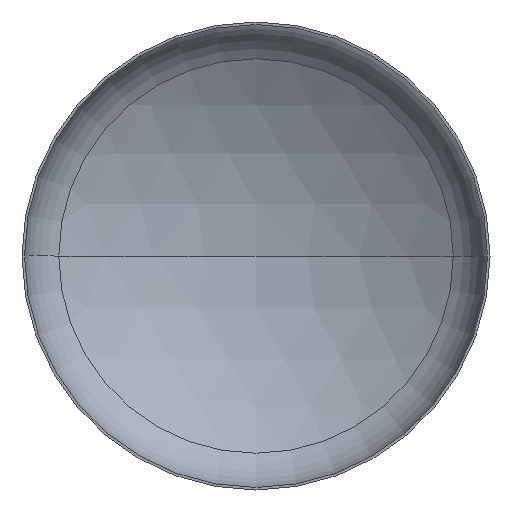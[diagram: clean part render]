
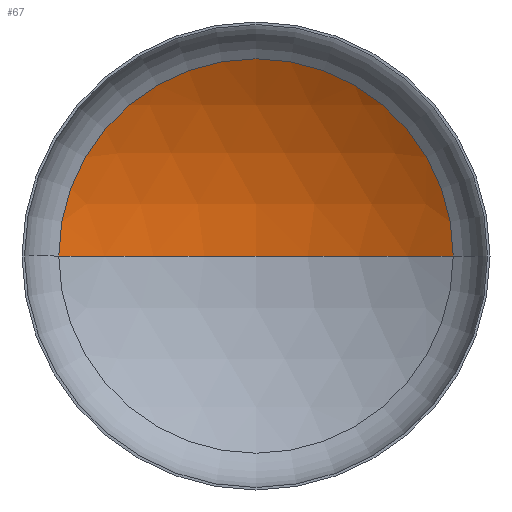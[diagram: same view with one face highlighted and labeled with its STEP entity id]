
A CAD part, front view. The second image highlights one B-rep face of the part: STEP entity #67.
In plain terms, the highlighted spherical face has radius 880 mm.
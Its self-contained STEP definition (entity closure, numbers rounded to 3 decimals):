
#20 = CARTESIAN_POINT ( 'NONE',  ( 0., -583.51, 0. ) ) ;
#22 = VERTEX_POINT ( 'NONE', #109 ) ;
#29 = DIRECTION ( 'NONE',  ( 0., 0., -1. ) ) ;
#58 = AXIS2_PLACEMENT_3D ( 'NONE', #216, #212, #208 ) ;
#61 = CIRCLE ( 'NONE', #58, 880. ) ;
#67 = ADVANCED_FACE ( 'NONE', ( #197 ), #292, .F. ) ;
#68 = AXIS2_PLACEMENT_3D ( 'NONE', #259, #257, #265 ) ;
#73 = AXIS2_PLACEMENT_3D ( 'NONE', #231, #230, #229 ) ;
#76 = ORIENTED_EDGE ( 'NONE', *, *, #177, .T. ) ;
#109 = CARTESIAN_POINT ( 'NONE',  ( 463.549, 164.502, 0. ) ) ;
#131 = AXIS2_PLACEMENT_3D ( 'NONE', #20, #29, #153 ) ;
#153 = DIRECTION ( 'NONE',  ( -1., 0., 0. ) ) ;
#155 = VERTEX_POINT ( 'NONE', #331 ) ;
#165 = ORIENTED_EDGE ( 'NONE', *, *, #186, .T. ) ;
#177 = EDGE_CURVE ( 'NONE', #22, #155, #279, .T. ) ;
#186 = EDGE_CURVE ( 'NONE', #253, #22, #375, .T. ) ;
#188 = EDGE_CURVE ( 'NONE', #253, #155, #61, .T. ) ;
#197 = FACE_OUTER_BOUND ( 'NONE', #351, .T. ) ;
#208 = DIRECTION ( 'NONE',  ( 1., 0., 0. ) ) ;
#212 = DIRECTION ( 'NONE',  ( 0., 0., 1. ) ) ;
#216 = CARTESIAN_POINT ( 'NONE',  ( 0., -583.51, 0. ) ) ;
#229 = DIRECTION ( 'NONE',  ( 1., 0., 0. ) ) ;
#230 = DIRECTION ( 'NONE',  ( 0., -1., 0. ) ) ;
#231 = CARTESIAN_POINT ( 'NONE',  ( 0., 164.502, 0. ) ) ;
#253 = VERTEX_POINT ( 'NONE', #303 ) ;
#257 = DIRECTION ( 'NONE',  ( 0., 0., -1. ) ) ;
#259 = CARTESIAN_POINT ( 'NONE',  ( 0., -583.51, 0. ) ) ;
#265 = DIRECTION ( 'NONE',  ( -1., 0., 0. ) ) ;
#279 = CIRCLE ( 'NONE', #73, 463.549 ) ;
#292 = SPHERICAL_SURFACE ( 'NONE', #131, 880. ) ;
#303 = CARTESIAN_POINT ( 'NONE',  ( 0., 296.49, 0. ) ) ;
#331 = CARTESIAN_POINT ( 'NONE',  ( -463.549, 164.502, 0. ) ) ;
#351 = EDGE_LOOP ( 'NONE', ( #401, #165, #76 ) ) ;
#375 = CIRCLE ( 'NONE', #68, 880. ) ;
#401 = ORIENTED_EDGE ( 'NONE', *, *, #188, .F. ) ;
